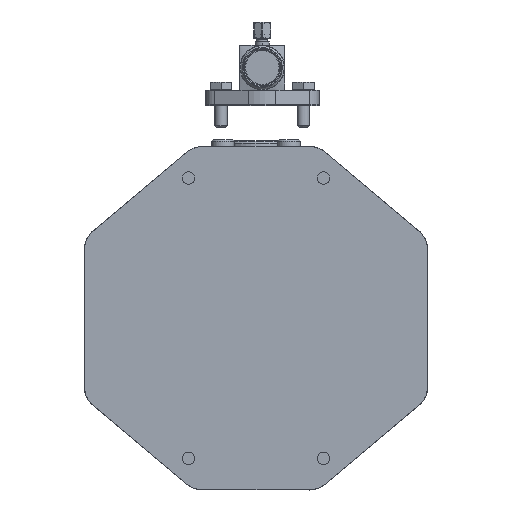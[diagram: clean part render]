
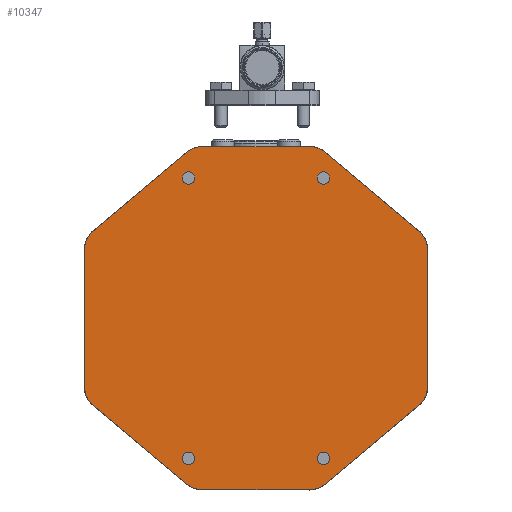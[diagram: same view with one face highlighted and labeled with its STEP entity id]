
A CAD part, left-side view. The second image highlights one B-rep face of the part: STEP entity #10347.
In plain terms, the highlighted planar face has unit normal (-1, 0, 0) as drawn and (0, 0, -1) by its records, which use the part's own axes.
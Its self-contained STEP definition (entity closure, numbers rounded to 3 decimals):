
#6386=LINE('',#35747,#7444);
#6387=LINE('',#35752,#7445);
#6388=LINE('',#35756,#7446);
#6389=LINE('',#35760,#7447);
#6390=LINE('',#35764,#7448);
#6391=LINE('',#35768,#7449);
#6392=LINE('',#35772,#7450);
#6393=LINE('',#35776,#7451);
#7444=VECTOR('',#29789,1.);
#7445=VECTOR('',#29792,1.);
#7446=VECTOR('',#29795,1.);
#7447=VECTOR('',#29798,1.);
#7448=VECTOR('',#29801,1.);
#7449=VECTOR('',#29804,1.);
#7450=VECTOR('',#29807,1.);
#7451=VECTOR('',#29810,1.);
#9802=FACE_BOUND('',#13374,.T.);
#9803=FACE_BOUND('',#13375,.T.);
#9804=FACE_BOUND('',#13376,.T.);
#9805=FACE_BOUND('',#13377,.T.);
#9806=FACE_BOUND('',#13378,.T.);
#10347=ADVANCED_FACE('',(#9802,#9803,#9804,#9805,#9806),#11740,.F.);
#11740=PLANE('',#27419);
#13374=EDGE_LOOP('',(#15119,#15120,#15121,#15122,#15123,#15124,#15125,#15126,
#15127,#15128,#15129,#15130,#15131,#15132,#15133,#15134));
#13375=EDGE_LOOP('',(#15135));
#13376=EDGE_LOOP('',(#15136));
#13377=EDGE_LOOP('',(#15137));
#13378=EDGE_LOOP('',(#15138));
#15119=ORIENTED_EDGE('',*,*,#23303,.T.);
#15120=ORIENTED_EDGE('',*,*,#23304,.T.);
#15121=ORIENTED_EDGE('',*,*,#23305,.T.);
#15122=ORIENTED_EDGE('',*,*,#23306,.T.);
#15123=ORIENTED_EDGE('',*,*,#23307,.T.);
#15124=ORIENTED_EDGE('',*,*,#23308,.T.);
#15125=ORIENTED_EDGE('',*,*,#23309,.T.);
#15126=ORIENTED_EDGE('',*,*,#23310,.T.);
#15127=ORIENTED_EDGE('',*,*,#23311,.T.);
#15128=ORIENTED_EDGE('',*,*,#23312,.T.);
#15129=ORIENTED_EDGE('',*,*,#23313,.T.);
#15130=ORIENTED_EDGE('',*,*,#23314,.T.);
#15131=ORIENTED_EDGE('',*,*,#23315,.T.);
#15132=ORIENTED_EDGE('',*,*,#23316,.T.);
#15133=ORIENTED_EDGE('',*,*,#23317,.T.);
#15134=ORIENTED_EDGE('',*,*,#23318,.T.);
#15135=ORIENTED_EDGE('',*,*,#23319,.F.);
#15136=ORIENTED_EDGE('',*,*,#23320,.F.);
#15137=ORIENTED_EDGE('',*,*,#23321,.F.);
#15138=ORIENTED_EDGE('',*,*,#23322,.F.);
#21309=VERTEX_POINT('',#35748);
#21310=VERTEX_POINT('',#35749);
#21311=VERTEX_POINT('',#35751);
#21312=VERTEX_POINT('',#35753);
#21313=VERTEX_POINT('',#35755);
#21314=VERTEX_POINT('',#35757);
#21315=VERTEX_POINT('',#35759);
#21316=VERTEX_POINT('',#35761);
#21317=VERTEX_POINT('',#35763);
#21318=VERTEX_POINT('',#35765);
#21319=VERTEX_POINT('',#35767);
#21320=VERTEX_POINT('',#35769);
#21321=VERTEX_POINT('',#35771);
#21322=VERTEX_POINT('',#35773);
#21323=VERTEX_POINT('',#35775);
#21324=VERTEX_POINT('',#35777);
#21325=VERTEX_POINT('',#35780);
#21326=VERTEX_POINT('',#35782);
#21327=VERTEX_POINT('',#35784);
#21328=VERTEX_POINT('',#35786);
#23303=EDGE_CURVE('',#21309,#21310,#6386,.T.);
#23304=EDGE_CURVE('',#21310,#21311,#26350,.T.);
#23305=EDGE_CURVE('',#21311,#21312,#6387,.T.);
#23306=EDGE_CURVE('',#21312,#21313,#26351,.T.);
#23307=EDGE_CURVE('',#21313,#21314,#6388,.T.);
#23308=EDGE_CURVE('',#21314,#21315,#26352,.T.);
#23309=EDGE_CURVE('',#21315,#21316,#6389,.T.);
#23310=EDGE_CURVE('',#21316,#21317,#26353,.T.);
#23311=EDGE_CURVE('',#21317,#21318,#6390,.T.);
#23312=EDGE_CURVE('',#21318,#21319,#26354,.T.);
#23313=EDGE_CURVE('',#21319,#21320,#6391,.T.);
#23314=EDGE_CURVE('',#21320,#21321,#26355,.T.);
#23315=EDGE_CURVE('',#21321,#21322,#6392,.T.);
#23316=EDGE_CURVE('',#21322,#21323,#26356,.T.);
#23317=EDGE_CURVE('',#21323,#21324,#6393,.T.);
#23318=EDGE_CURVE('',#21324,#21309,#26357,.T.);
#23319=EDGE_CURVE('',#21325,#21325,#26358,.T.);
#23320=EDGE_CURVE('',#21326,#21326,#26359,.T.);
#23321=EDGE_CURVE('',#21327,#21327,#26360,.T.);
#23322=EDGE_CURVE('',#21328,#21328,#26361,.T.);
#26350=CIRCLE('',#27407,19.9);
#26351=CIRCLE('',#27408,19.9);
#26352=CIRCLE('',#27409,19.9);
#26353=CIRCLE('',#27410,19.9);
#26354=CIRCLE('',#27411,19.9);
#26355=CIRCLE('',#27412,19.9);
#26356=CIRCLE('',#27413,19.9);
#26357=CIRCLE('',#27414,19.9);
#26358=CIRCLE('',#27415,5.);
#26359=CIRCLE('',#27416,5.);
#26360=CIRCLE('',#27417,5.);
#26361=CIRCLE('',#27418,5.);
#27407=AXIS2_PLACEMENT_3D('',#35750,#29790,#29791);
#27408=AXIS2_PLACEMENT_3D('',#35754,#29793,#29794);
#27409=AXIS2_PLACEMENT_3D('',#35758,#29796,#29797);
#27410=AXIS2_PLACEMENT_3D('',#35762,#29799,#29800);
#27411=AXIS2_PLACEMENT_3D('',#35766,#29802,#29803);
#27412=AXIS2_PLACEMENT_3D('',#35770,#29805,#29806);
#27413=AXIS2_PLACEMENT_3D('',#35774,#29808,#29809);
#27414=AXIS2_PLACEMENT_3D('',#35778,#29811,#29812);
#27415=AXIS2_PLACEMENT_3D('',#35779,#29813,#29814);
#27416=AXIS2_PLACEMENT_3D('',#35781,#29815,#29816);
#27417=AXIS2_PLACEMENT_3D('',#35783,#29817,#29818);
#27418=AXIS2_PLACEMENT_3D('',#35785,#29819,#29820);
#27419=AXIS2_PLACEMENT_3D('',#35787,#29821,#29822);
#29789=DIRECTION('',(0.766,0.643,0.));
#29790=DIRECTION('',(0.,0.,-1.));
#29791=DIRECTION('',(1.,0.,0.));
#29792=DIRECTION('',(1.,0.,0.));
#29793=DIRECTION('',(0.,0.,-1.));
#29794=DIRECTION('',(1.,0.,0.));
#29795=DIRECTION('',(0.766,-0.643,0.));
#29796=DIRECTION('',(0.,0.,-1.));
#29797=DIRECTION('',(1.,0.,0.));
#29798=DIRECTION('',(0.,-1.,0.));
#29799=DIRECTION('',(0.,0.,-1.));
#29800=DIRECTION('',(1.,0.,0.));
#29801=DIRECTION('',(-0.766,-0.643,0.));
#29802=DIRECTION('',(0.,0.,-1.));
#29803=DIRECTION('',(1.,0.,0.));
#29804=DIRECTION('',(-1.,0.,0.));
#29805=DIRECTION('',(0.,0.,-1.));
#29806=DIRECTION('',(1.,0.,0.));
#29807=DIRECTION('',(-0.766,0.643,0.));
#29808=DIRECTION('',(0.,0.,-1.));
#29809=DIRECTION('',(1.,0.,0.));
#29810=DIRECTION('',(0.,1.,0.));
#29811=DIRECTION('',(0.,0.,-1.));
#29812=DIRECTION('',(1.,0.,0.));
#29813=DIRECTION('',(0.,0.,-1.));
#29814=DIRECTION('',(1.,0.,0.));
#29815=DIRECTION('',(0.,0.,-1.));
#29816=DIRECTION('',(1.,0.,0.));
#29817=DIRECTION('',(0.,0.,-1.));
#29818=DIRECTION('',(1.,0.,0.));
#29819=DIRECTION('',(0.,0.,-1.));
#29820=DIRECTION('',(1.,0.,0.));
#29821=DIRECTION('',(0.,0.,1.));
#29822=DIRECTION('',(-1.,0.,0.));
#35747=CARTESIAN_POINT('',(-8.594,183.156,393.));
#35748=CARTESIAN_POINT('',(-83.379,120.337,393.));
#35749=CARTESIAN_POINT('',(-8.594,183.156,393.));
#35750=CARTESIAN_POINT('',(4.206,167.919,393.));
#35751=CARTESIAN_POINT('',(4.206,187.819,393.));
#35752=CARTESIAN_POINT('',(89.635,187.818,393.));
#35753=CARTESIAN_POINT('',(89.635,187.818,393.));
#35754=CARTESIAN_POINT('',(89.635,167.918,393.));
#35755=CARTESIAN_POINT('',(102.435,183.155,393.));
#35756=CARTESIAN_POINT('',(177.22,120.335,393.));
#35757=CARTESIAN_POINT('',(177.22,120.335,393.));
#35758=CARTESIAN_POINT('',(164.42,105.098,393.));
#35759=CARTESIAN_POINT('',(184.32,105.097,393.));
#35760=CARTESIAN_POINT('',(184.319,-4.263,393.));
#35761=CARTESIAN_POINT('',(184.319,-4.263,393.));
#35762=CARTESIAN_POINT('',(164.419,-4.263,393.));
#35763=CARTESIAN_POINT('',(177.218,-19.501,393.));
#35764=CARTESIAN_POINT('',(102.433,-82.32,393.));
#35765=CARTESIAN_POINT('',(102.433,-82.32,393.));
#35766=CARTESIAN_POINT('',(89.633,-67.082,393.));
#35767=CARTESIAN_POINT('',(89.633,-86.982,393.));
#35768=CARTESIAN_POINT('',(4.204,-86.981,393.));
#35769=CARTESIAN_POINT('',(4.204,-86.981,393.));
#35770=CARTESIAN_POINT('',(4.204,-67.081,393.));
#35771=CARTESIAN_POINT('',(-8.596,-82.319,393.));
#35772=CARTESIAN_POINT('',(-83.381,-19.498,393.));
#35773=CARTESIAN_POINT('',(-83.381,-19.498,393.));
#35774=CARTESIAN_POINT('',(-70.581,-4.261,393.));
#35775=CARTESIAN_POINT('',(-90.481,-4.261,393.));
#35776=CARTESIAN_POINT('',(-90.48,105.1,393.));
#35777=CARTESIAN_POINT('',(-90.48,105.1,393.));
#35778=CARTESIAN_POINT('',(-70.58,105.1,393.));
#35779=CARTESIAN_POINT('',(100.938,-61.752,393.));
#35780=CARTESIAN_POINT('',(105.938,-61.752,393.));
#35781=CARTESIAN_POINT('',(-7.099,-61.752,393.));
#35782=CARTESIAN_POINT('',(-2.099,-61.752,393.));
#35783=CARTESIAN_POINT('',(100.938,162.589,393.));
#35784=CARTESIAN_POINT('',(105.938,162.589,393.));
#35785=CARTESIAN_POINT('',(-7.099,162.589,393.));
#35786=CARTESIAN_POINT('',(-2.099,162.589,393.));
#35787=CARTESIAN_POINT('',(96.921,187.918,393.));
